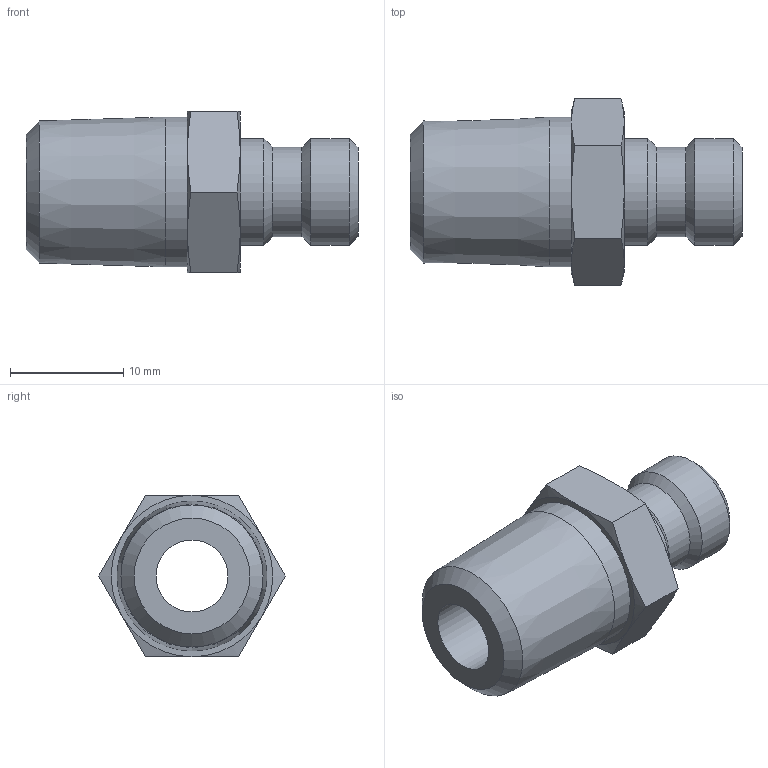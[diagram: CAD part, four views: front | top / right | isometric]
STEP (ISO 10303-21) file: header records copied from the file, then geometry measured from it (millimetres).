
FILE_DESCRIPTION(/* description */ ('STEP AP214'),/* implementation_level */ '2;1');
FILE_NAME(/* name */ 'JP-252',/* time_stamp */ '2024-12-19T08:34:57+01:00',/* author */ ('License CC BY-ND 4.0'),/* organization */ ('CADENAS'),/* preprocessor_version */ 'ST-DEVELOPER v19.3',/* originating_system */ 'PARTsolutions',/* authorisation */ ' ');
FILE_SCHEMA (('AUTOMOTIVE_DESIGN {1 0 10303 214 3 1 1}'));
Length unit declared in the file: inch
Products named in the file (1): JP-252
Bounding box: 29.36 x 16.48 x 14.27 mm (x, y, z)
Volume: 2392.8 mm3; surface area: 1930.9 mm2
Topology: 1 solids, 1 shells, 32 faces, 65 edges, 37 vertices
Faces by surface type: cone 17, plane 10, cylinder 5
Full cylindrical faces by diameter (mm): 6.35 x1, 7.937 x1, 9.449 x2, 13.256 x1
Entity records: 832 total; most frequent: CARTESIAN_POINT 197, DIRECTION 122, ORIENTED_EDGE 110, AXIS2_PLACEMENT_3D 58, EDGE_CURVE 55, EDGE_LOOP 46, FACE_BOUND 46, VERTEX_POINT 37
